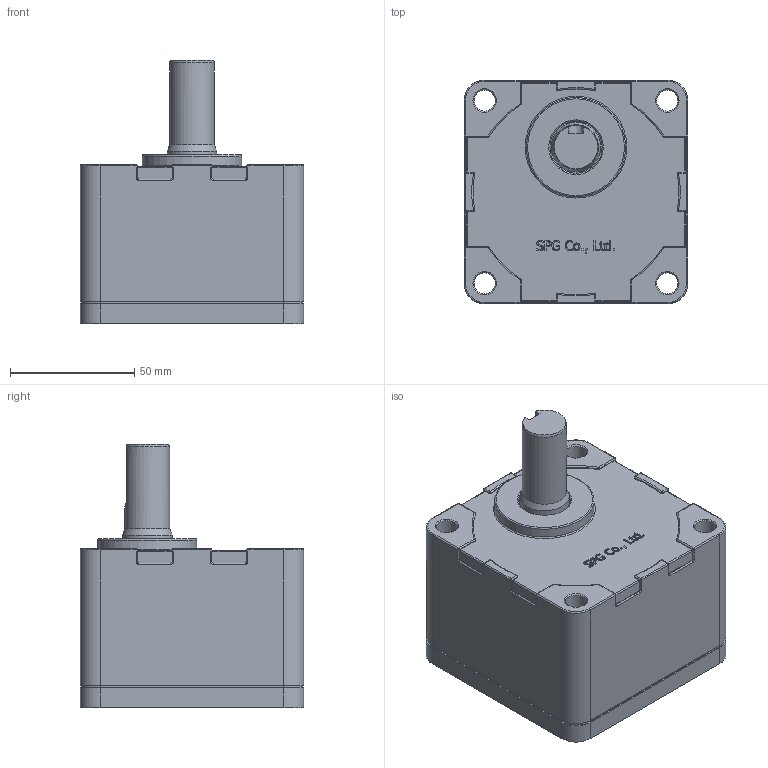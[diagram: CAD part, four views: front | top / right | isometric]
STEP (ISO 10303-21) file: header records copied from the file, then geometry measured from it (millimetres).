
FILE_DESCRIPTION((''),'2;1');
FILE_NAME('C:\Documents and Settings\Administrator\바탕 화면\BLDC 3D FILE\GEAR HEAD ASS''Y\60\XTG9200K.stp','2014-06-19T12:47:05',('kdhkdh'),(''),'Autodesk Inventor 2011','Autodesk Inventor 2011','');
FILE_SCHEMA(('AUTOMOTIVE_DESIGN { 1 0 10303 214 1 1 1 1 }'));
Length unit declared in the file: millimetre
Products named in the file (1): 부품6
Bounding box: 90 x 90 x 106 mm (x, y, z)
Volume: 495108.8 mm3; surface area: 50776.4 mm2
Topology: 1 solids, 1 shells, 455 faces, 1142 edges, 694 vertices
Faces by surface type: plane 154, cylinder 143, bspline 81, sphere 32, torus 30, cone 15
Full cylindrical faces by diameter (mm): 3 x4, 4 x4, 5 x4, 8 x4, 8.5 x8, 9 x1, 18 x1, 20 x1, 21 x1, 40 x1, 83 x1
Entity records: 13429 total; most frequent: CARTESIAN_POINT 3343, ORIENTED_EDGE 2084, DIRECTION 1965, EDGE_CURVE 1042, AXIS2_PLACEMENT_3D 716, VERTEX_POINT 672, EDGE_LOOP 546, VECTOR 533
